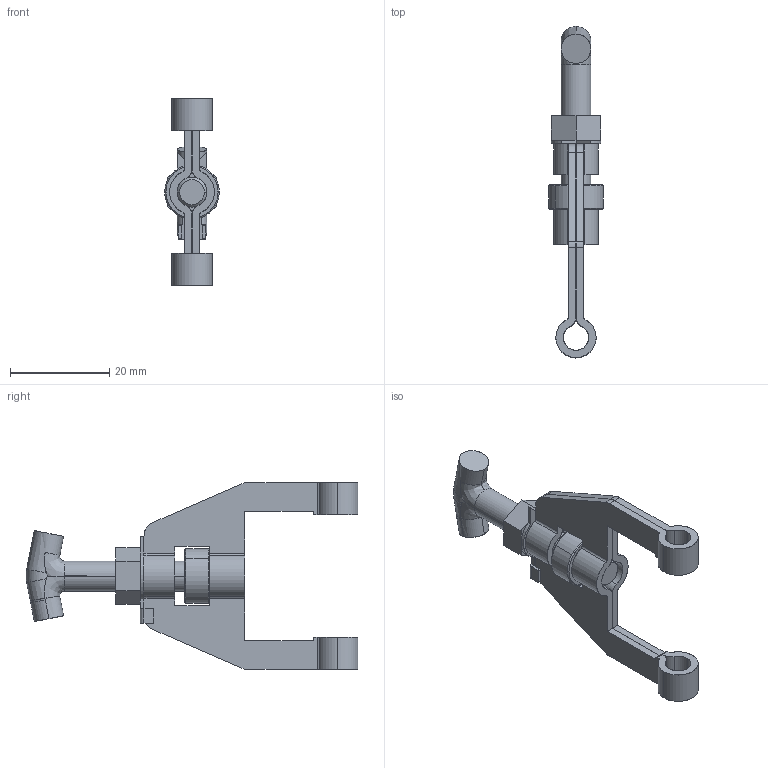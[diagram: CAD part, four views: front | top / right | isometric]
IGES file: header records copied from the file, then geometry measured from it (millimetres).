
Start section: SolidWorks IGES FILE using analytic representation for surfaces
Global section: file name: C:\Documents and Settings\lecoutey\Bureau\GR 88\Ensemble de réglage étrier de 55.IGS; native system: SolidWorks 2004 by SolidWorks Corporation; preprocessor: Version 5.3; author: lecoutey; date: 050405.090705; units: millimetre
Bounding box: 11 x 66.84 x 37.6 mm (x, y, z)
Surface area: 6159.3 mm2 (no closed solid volume)
Topology: 0 solids, 0 shells, 175 faces, 2140 edges, 2140 vertices
Faces by surface type: revolution 95, bspline 80
